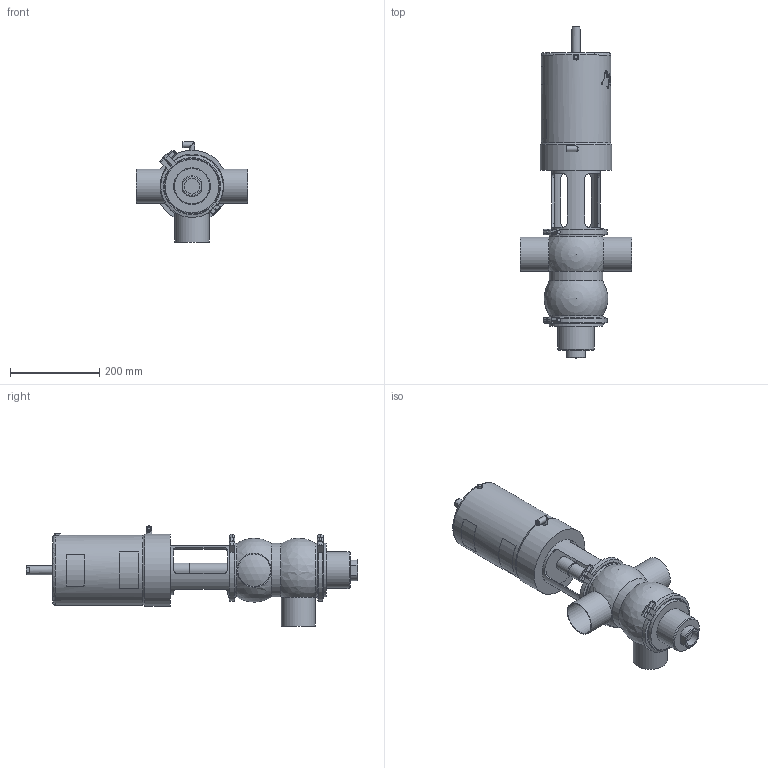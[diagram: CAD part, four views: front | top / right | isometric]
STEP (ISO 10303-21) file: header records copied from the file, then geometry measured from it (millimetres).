
FILE_DESCRIPTION (( 'STEP AP214' ), '1' );
FILE_NAME ('INNOVA S AB-90 W OD 3_10.251.16.0001.STEP', '2024-08-20T12:11:31', ( '' ), ( '' ), 'SwSTEP 2.0', 'SolidWorks 2023', '' );
FILE_SCHEMA (( 'AUTOMOTIVE_DESIGN' ));
Length unit declared in the file: millimetre
Products named in the file (6): 10.251.15.0002_DN 3"; 10.250.15.0002_Type S T2; INNOVA S AB-90 W OD 3_10.251.16.0001; 10.240.15.0001_DN 080; 10.251.15.0001_OD 3"; 10.251.15.0003_OD 3"
Assembly tree (6 placements, depth 2):
  INNOVA S AB-90 W OD 3_10.251.16.0001
    10.251.15.0001_OD 3"
    10.250.15.0002_Type S T2
    10.251.15.0003_OD 3"
    10.240.15.0001_DN 080  x2
    10.251.15.0002_DN 3"
Bounding box: 250 x 743.1 x 224 mm (x, y, z)
Volume: 8800919.1 mm3; surface area: 569086.7 mm2
Topology: 6 solids, 6 shells, 423 faces, 1095 edges, 713 vertices
Faces by surface type: plane 201, cylinder 109, bspline 80, cone 27, sphere 5, torus 1
Full cylindrical faces by diameter (mm): 4.2 x2, 5 x1, 6 x1, 6.15 x1, 8 x4, 8.5 x1, 10.5 x2, 12.5 x6, 20 x1, 30.5 x1, 32 x1, 35 x1, 72.9 x3, 76.2 x3, 82 x1, 109 x1, 109.1 x1, 120 x4, 132 x4, 156 x1, 161 x1
Entity records: 22199 total; most frequent: CARTESIAN_POINT 12103, ORIENTED_EDGE 1714, DIRECTION 1343, EDGE_CURVE 857, VERTEX_POINT 589, AXIS2_PLACEMENT_3D 516, EDGE_LOOP 458, FACE_OUTER_BOUND 407
